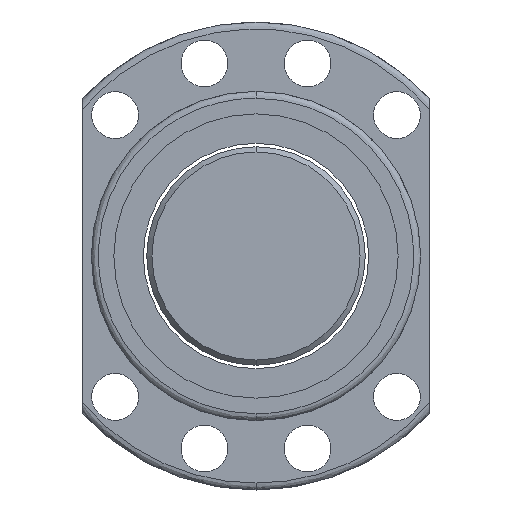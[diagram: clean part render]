
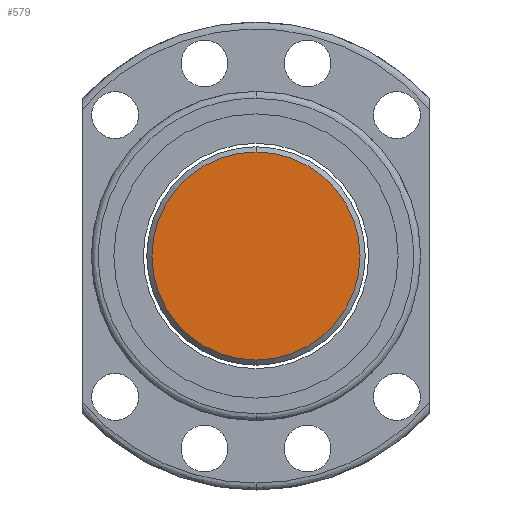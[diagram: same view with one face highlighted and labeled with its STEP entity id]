
A CAD part, left-side view. The second image highlights one B-rep face of the part: STEP entity #579.
In plain terms, the highlighted planar face has unit normal (-1, 0, 0).
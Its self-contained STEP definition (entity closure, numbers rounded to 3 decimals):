
#247 = EDGE_LOOP ( 'NONE', ( #570, #578 ) ) ;
#496 = VERTEX_POINT ( 'NONE', #1630 ) ;
#498 = VERTEX_POINT ( 'NONE', #1701 ) ;
#566 = EDGE_CURVE ( 'NONE', #498, #496, #1881, .T. ) ;
#570 = ORIENTED_EDGE ( 'NONE', *, *, #773, .F. ) ;
#578 = ORIENTED_EDGE ( 'NONE', *, *, #566, .F. ) ;
#579 = ADVANCED_FACE ( 'NONE', ( #1873 ), #1863, .F. ) ;
#773 = EDGE_CURVE ( 'NONE', #496, #498, #2295, .T. ) ;
#1630 = CARTESIAN_POINT ( 'NONE',  ( -340., 0., -30. ) ) ;
#1701 = CARTESIAN_POINT ( 'NONE',  ( -340., 0., 30. ) ) ;
#1863 = PLANE ( 'NONE',  #1866 ) ;
#1866 = AXIS2_PLACEMENT_3D ( 'NONE', #1876, #1875, #1923 ) ;
#1870 = DIRECTION ( 'NONE',  ( 0., 0., -1. ) ) ;
#1871 = DIRECTION ( 'NONE',  ( 1., 0., 0. ) ) ;
#1872 = AXIS2_PLACEMENT_3D ( 'NONE', #1889, #1871, #1870 ) ;
#1873 = FACE_OUTER_BOUND ( 'NONE', #247, .T. ) ;
#1875 = DIRECTION ( 'NONE',  ( 1., 0., 0. ) ) ;
#1876 = CARTESIAN_POINT ( 'NONE',  ( -340., 15.75, 0. ) ) ;
#1881 = CIRCLE ( 'NONE', #1872, 30. ) ;
#1889 = CARTESIAN_POINT ( 'NONE',  ( -340., 0., 0. ) ) ;
#1923 = DIRECTION ( 'NONE',  ( 0., 0., -1. ) ) ;
#2247 = DIRECTION ( 'NONE',  ( 0., 0., -1. ) ) ;
#2248 = DIRECTION ( 'NONE',  ( 1., 0., 0. ) ) ;
#2249 = AXIS2_PLACEMENT_3D ( 'NONE', #2296, #2248, #2247 ) ;
#2295 = CIRCLE ( 'NONE', #2249, 30. ) ;
#2296 = CARTESIAN_POINT ( 'NONE',  ( -340., 0., 0. ) ) ;
